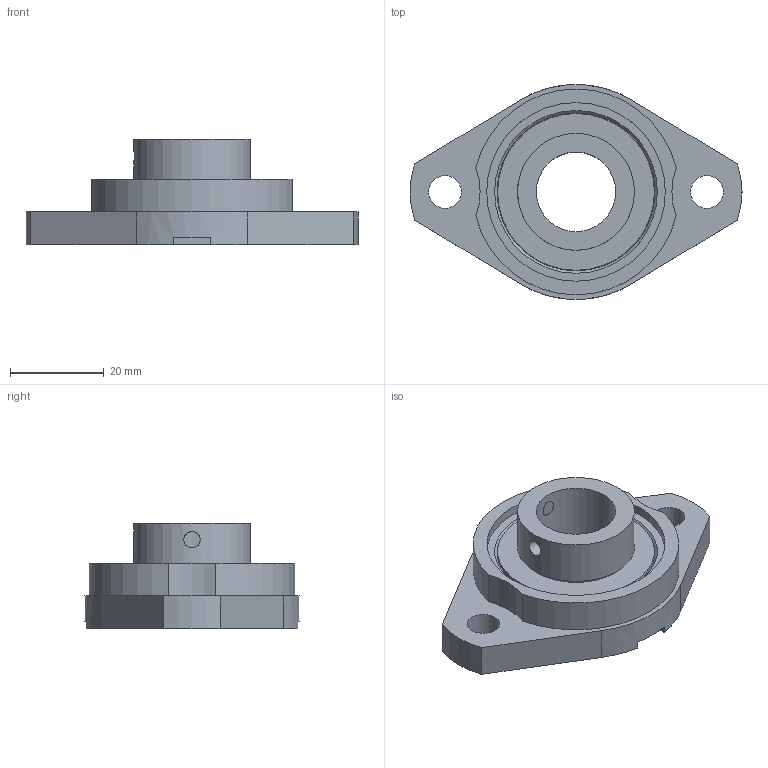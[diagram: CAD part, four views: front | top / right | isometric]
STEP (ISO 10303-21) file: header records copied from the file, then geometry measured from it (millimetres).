
FILE_DESCRIPTION((''),'2;1');
FILE_NAME('\\Ts-tgl068\j-cad-d-base\00.3DCADデータ作成フォルダ\11.エコシリーズ\MUSFL000\MUSFL003.stp','2014-11-12T09:41:33',('btec_1106_2'),(''),'Autodesk Inventor 2012','Autodesk Inventor 2012','');
FILE_SCHEMA(('AUTOMOTIVE_DESIGN { 1 0 10303 214 1 1 1 1 }'));
Length unit declared in the file: millimetre
Products named in the file (3): MUSFL000; SFL003; U003
Assembly tree (2 placements, depth 2):
  MUSFL000
    SFL003
    U003
Bounding box: 71 x 45.92 x 22.5 mm (x, y, z)
Volume: 20803.7 mm3; surface area: 11139.7 mm2
Topology: 2 solids, 2 shells, 74 faces, 189 edges, 124 vertices
Faces by surface type: plane 39, cylinder 30, cone 3, sphere 2
Full cylindrical faces by diameter (mm): 3.242 x1, 3.5 x1, 7 x2, 17 x1, 23.1 x1, 25 x1, 38.2 x1
Entity records: 2338 total; most frequent: CARTESIAN_POINT 497, DIRECTION 386, ORIENTED_EDGE 334, EDGE_CURVE 167, AXIS2_PLACEMENT_3D 146, VERTEX_POINT 117, EDGE_LOOP 104, VECTOR 94
